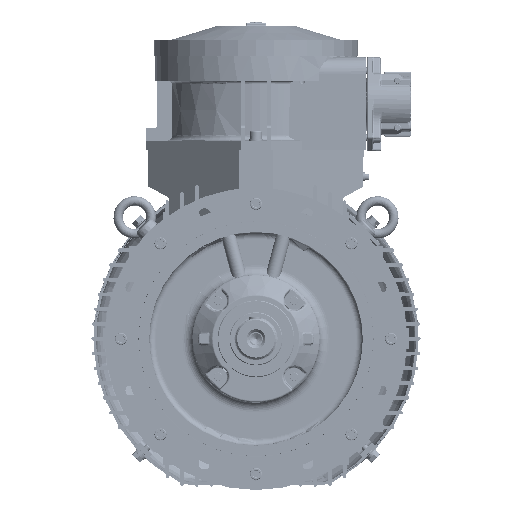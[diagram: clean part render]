
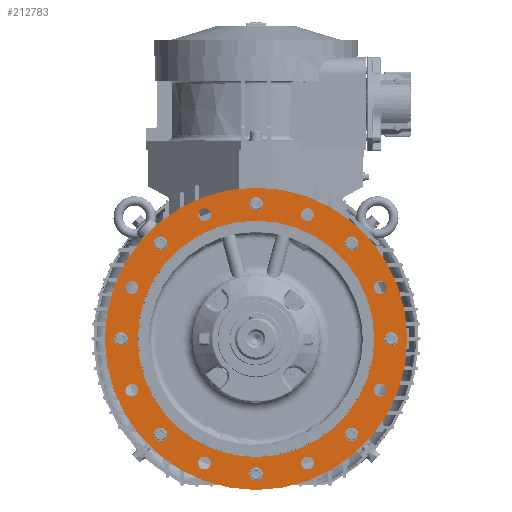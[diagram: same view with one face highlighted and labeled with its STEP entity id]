
A CAD part, left-side view. The second image highlights one B-rep face of the part: STEP entity #212783.
In plain terms, the highlighted planar face has unit normal (-1, 0, 0).
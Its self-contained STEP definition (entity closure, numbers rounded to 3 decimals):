
#39221=PLANE('',#224590);
#77406=ORIENTED_EDGE('',*,*,#102236,.F.);
#77407=ORIENTED_EDGE('',*,*,#102203,.T.);
#77408=ORIENTED_EDGE('',*,*,#102199,.T.);
#77409=ORIENTED_EDGE('',*,*,#102195,.T.);
#77410=ORIENTED_EDGE('',*,*,#102191,.T.);
#77411=ORIENTED_EDGE('',*,*,#102187,.T.);
#77412=ORIENTED_EDGE('',*,*,#102183,.T.);
#77413=ORIENTED_EDGE('',*,*,#102179,.T.);
#77414=ORIENTED_EDGE('',*,*,#102175,.T.);
#77415=ORIENTED_EDGE('',*,*,#102170,.T.);
#77416=ORIENTED_EDGE('',*,*,#102169,.F.);
#77417=ORIENTED_EDGE('',*,*,#102167,.F.);
#77418=ORIENTED_EDGE('',*,*,#102165,.F.);
#77419=ORIENTED_EDGE('',*,*,#102163,.F.);
#77420=ORIENTED_EDGE('',*,*,#102161,.F.);
#77421=ORIENTED_EDGE('',*,*,#102159,.F.);
#77422=ORIENTED_EDGE('',*,*,#102157,.F.);
#77423=ORIENTED_EDGE('',*,*,#102155,.F.);
#102155=EDGE_CURVE('',#117538,#117538,#122648,.T.);
#102157=EDGE_CURVE('',#117540,#117540,#122650,.T.);
#102159=EDGE_CURVE('',#117542,#117542,#122652,.T.);
#102161=EDGE_CURVE('',#117544,#117544,#122654,.T.);
#102163=EDGE_CURVE('',#117546,#117546,#122656,.T.);
#102165=EDGE_CURVE('',#117548,#117548,#122658,.T.);
#102167=EDGE_CURVE('',#117550,#117550,#122660,.T.);
#102169=EDGE_CURVE('',#117552,#117552,#122662,.T.);
#102170=EDGE_CURVE('',#117553,#117553,#122663,.T.);
#102175=EDGE_CURVE('',#117557,#117557,#122668,.T.);
#102179=EDGE_CURVE('',#117559,#117559,#122672,.T.);
#102183=EDGE_CURVE('',#117561,#117561,#122676,.T.);
#102187=EDGE_CURVE('',#117563,#117563,#122680,.T.);
#102191=EDGE_CURVE('',#117565,#117565,#122684,.T.);
#102195=EDGE_CURVE('',#117567,#117567,#122688,.T.);
#102199=EDGE_CURVE('',#117569,#117569,#122692,.T.);
#102203=EDGE_CURVE('',#117571,#117571,#122696,.T.);
#102236=EDGE_CURVE('',#117597,#117597,#122703,.T.);
#117538=VERTEX_POINT('',#321919);
#117540=VERTEX_POINT('',#321924);
#117542=VERTEX_POINT('',#321929);
#117544=VERTEX_POINT('',#321934);
#117546=VERTEX_POINT('',#321939);
#117548=VERTEX_POINT('',#321944);
#117550=VERTEX_POINT('',#321949);
#117552=VERTEX_POINT('',#321954);
#117553=VERTEX_POINT('',#321957);
#117557=VERTEX_POINT('',#321972);
#117559=VERTEX_POINT('',#321981);
#117561=VERTEX_POINT('',#321990);
#117563=VERTEX_POINT('',#321999);
#117565=VERTEX_POINT('',#322008);
#117567=VERTEX_POINT('',#322017);
#117569=VERTEX_POINT('',#322026);
#117571=VERTEX_POINT('',#322035);
#117597=VERTEX_POINT('',#322105);
#122648=CIRCLE('',#224490,9.5);
#122650=CIRCLE('',#224493,9.5);
#122652=CIRCLE('',#224496,9.5);
#122654=CIRCLE('',#224499,9.5);
#122656=CIRCLE('',#224502,9.5);
#122658=CIRCLE('',#224505,9.5);
#122660=CIRCLE('',#224508,9.5);
#122662=CIRCLE('',#224511,9.5);
#122663=CIRCLE('',#224513,175.919);
#122668=CIRCLE('',#224524,10.);
#122672=CIRCLE('',#224531,10.);
#122676=CIRCLE('',#224538,10.);
#122680=CIRCLE('',#224545,10.);
#122684=CIRCLE('',#224552,10.);
#122688=CIRCLE('',#224559,10.);
#122692=CIRCLE('',#224566,10.);
#122696=CIRCLE('',#224573,10.);
#122703=CIRCLE('',#224591,225.);
#133013=EDGE_LOOP('',(#77406));
#133014=EDGE_LOOP('',(#77407));
#133015=EDGE_LOOP('',(#77408));
#133016=EDGE_LOOP('',(#77409));
#133017=EDGE_LOOP('',(#77410));
#133018=EDGE_LOOP('',(#77411));
#133019=EDGE_LOOP('',(#77412));
#133020=EDGE_LOOP('',(#77413));
#133021=EDGE_LOOP('',(#77414));
#133022=EDGE_LOOP('',(#77415));
#133023=EDGE_LOOP('',(#77416));
#133024=EDGE_LOOP('',(#77417));
#133025=EDGE_LOOP('',(#77418));
#133026=EDGE_LOOP('',(#77419));
#133027=EDGE_LOOP('',(#77420));
#133028=EDGE_LOOP('',(#77421));
#133029=EDGE_LOOP('',(#77422));
#133030=EDGE_LOOP('',(#77423));
#144281=FACE_BOUND('',#133013,.T.);
#144282=FACE_BOUND('',#133014,.T.);
#144283=FACE_BOUND('',#133015,.T.);
#144284=FACE_BOUND('',#133016,.T.);
#144285=FACE_BOUND('',#133017,.T.);
#144286=FACE_BOUND('',#133018,.T.);
#144287=FACE_BOUND('',#133019,.T.);
#144288=FACE_BOUND('',#133020,.T.);
#144289=FACE_BOUND('',#133021,.T.);
#144290=FACE_BOUND('',#133022,.T.);
#144291=FACE_BOUND('',#133023,.T.);
#144292=FACE_BOUND('',#133024,.T.);
#144293=FACE_BOUND('',#133025,.T.);
#144294=FACE_BOUND('',#133026,.T.);
#144295=FACE_BOUND('',#133027,.T.);
#144296=FACE_BOUND('',#133028,.T.);
#144297=FACE_BOUND('',#133029,.T.);
#144298=FACE_BOUND('',#133030,.T.);
#212783=ADVANCED_FACE('',(#144281,#144282,#144283,#144284,#144285,#144286,
#144287,#144288,#144289,#144290,#144291,#144292,#144293,#144294,#144295,
#144296,#144297,#144298),#39221,.F.);
#224490=AXIS2_PLACEMENT_3D('',#321918,#261398,#261399);
#224493=AXIS2_PLACEMENT_3D('',#321923,#261404,#261405);
#224496=AXIS2_PLACEMENT_3D('',#321928,#261410,#261411);
#224499=AXIS2_PLACEMENT_3D('',#321933,#261416,#261417);
#224502=AXIS2_PLACEMENT_3D('',#321938,#261422,#261423);
#224505=AXIS2_PLACEMENT_3D('',#321943,#261428,#261429);
#224508=AXIS2_PLACEMENT_3D('',#321948,#261434,#261435);
#224511=AXIS2_PLACEMENT_3D('',#321953,#261440,#261441);
#224513=AXIS2_PLACEMENT_3D('',#321956,#261444,#261445);
#224524=AXIS2_PLACEMENT_3D('',#321971,#261466,#261467);
#224531=AXIS2_PLACEMENT_3D('',#321980,#261480,#261481);
#224538=AXIS2_PLACEMENT_3D('',#321989,#261494,#261495);
#224545=AXIS2_PLACEMENT_3D('',#321998,#261508,#261509);
#224552=AXIS2_PLACEMENT_3D('',#322007,#261522,#261523);
#224559=AXIS2_PLACEMENT_3D('',#322016,#261536,#261537);
#224566=AXIS2_PLACEMENT_3D('',#322025,#261550,#261551);
#224573=AXIS2_PLACEMENT_3D('',#322034,#261564,#261565);
#224590=AXIS2_PLACEMENT_3D('',#322103,#261624,#261625);
#224591=AXIS2_PLACEMENT_3D('',#322104,#261626,#261627);
#261398=DIRECTION('',(-1.,0.,0.));
#261399=DIRECTION('',(0.,-1.,0.));
#261404=DIRECTION('',(-1.,0.,0.));
#261405=DIRECTION('',(0.,-1.,0.));
#261410=DIRECTION('',(-1.,0.,0.));
#261411=DIRECTION('',(0.,-1.,0.));
#261416=DIRECTION('',(-1.,0.,0.));
#261417=DIRECTION('',(0.,-1.,0.));
#261422=DIRECTION('',(-1.,0.,0.));
#261423=DIRECTION('',(0.,-1.,0.));
#261428=DIRECTION('',(-1.,0.,0.));
#261429=DIRECTION('',(0.,-1.,0.));
#261434=DIRECTION('',(-1.,0.,0.));
#261435=DIRECTION('',(0.,-1.,0.));
#261440=DIRECTION('',(-1.,0.,0.));
#261441=DIRECTION('',(0.,-1.,0.));
#261444=DIRECTION('',(1.,0.,0.));
#261445=DIRECTION('',(0.,0.,1.));
#261466=DIRECTION('',(1.,0.,0.));
#261467=DIRECTION('',(0.,0.,-1.));
#261480=DIRECTION('',(1.,0.,0.));
#261481=DIRECTION('',(0.,0.,-1.));
#261494=DIRECTION('',(1.,0.,0.));
#261495=DIRECTION('',(0.,0.,-1.));
#261508=DIRECTION('',(1.,0.,0.));
#261509=DIRECTION('',(0.,0.,-1.));
#261522=DIRECTION('',(1.,0.,0.));
#261523=DIRECTION('',(0.,0.,-1.));
#261536=DIRECTION('',(1.,0.,0.));
#261537=DIRECTION('',(0.,0.,-1.));
#261550=DIRECTION('',(1.,0.,0.));
#261551=DIRECTION('',(0.,0.,-1.));
#261564=DIRECTION('',(1.,0.,0.));
#261565=DIRECTION('',(0.,0.,-1.));
#261624=DIRECTION('',(1.,0.,0.));
#261625=DIRECTION('',(0.,0.,1.));
#261626=DIRECTION('',(1.,0.,0.));
#261627=DIRECTION('',(0.,0.,1.));
#321918=CARTESIAN_POINT('',(-84.5,184.776,-76.537));
#321919=CARTESIAN_POINT('',(-84.5,175.276,-76.537));
#321923=CARTESIAN_POINT('',(-84.5,76.537,-184.776));
#321924=CARTESIAN_POINT('',(-84.5,67.037,-184.776));
#321928=CARTESIAN_POINT('',(-84.5,-76.537,-184.776));
#321929=CARTESIAN_POINT('',(-84.5,-86.037,-184.776));
#321933=CARTESIAN_POINT('',(-84.5,-184.776,-76.537));
#321934=CARTESIAN_POINT('',(-84.5,-194.276,-76.537));
#321938=CARTESIAN_POINT('',(-84.5,-184.776,76.537));
#321939=CARTESIAN_POINT('',(-84.5,-194.276,76.537));
#321943=CARTESIAN_POINT('',(-84.5,-76.537,184.776));
#321944=CARTESIAN_POINT('',(-84.5,-86.037,184.776));
#321948=CARTESIAN_POINT('',(-84.5,76.537,184.776));
#321949=CARTESIAN_POINT('',(-84.5,67.037,184.776));
#321953=CARTESIAN_POINT('',(-84.5,184.776,76.537));
#321954=CARTESIAN_POINT('',(-84.5,175.276,76.537));
#321956=CARTESIAN_POINT('',(-84.5,0.,0.));
#321957=CARTESIAN_POINT('',(-84.5,0.,175.919));
#321971=CARTESIAN_POINT('',(-84.5,142.128,142.128));
#321972=CARTESIAN_POINT('',(-84.5,142.128,132.128));
#321980=CARTESIAN_POINT('',(-84.5,201.,0.));
#321981=CARTESIAN_POINT('',(-84.5,201.,-10.));
#321989=CARTESIAN_POINT('',(-84.5,142.128,-142.128));
#321990=CARTESIAN_POINT('',(-84.5,142.128,-152.128));
#321998=CARTESIAN_POINT('',(-84.5,0.,-201.));
#321999=CARTESIAN_POINT('',(-84.5,0.,-211.));
#322007=CARTESIAN_POINT('',(-84.5,-142.128,-142.128));
#322008=CARTESIAN_POINT('',(-84.5,-142.128,-152.128));
#322016=CARTESIAN_POINT('',(-84.5,-201.,0.));
#322017=CARTESIAN_POINT('',(-84.5,-201.,-10.));
#322025=CARTESIAN_POINT('',(-84.5,-142.128,142.128));
#322026=CARTESIAN_POINT('',(-84.5,-142.128,132.128));
#322034=CARTESIAN_POINT('',(-84.5,0.,201.));
#322035=CARTESIAN_POINT('',(-84.5,0.,191.));
#322103=CARTESIAN_POINT('',(-84.5,0.,242.195));
#322104=CARTESIAN_POINT('',(-84.5,0.,0.));
#322105=CARTESIAN_POINT('',(-84.5,0.,225.));
